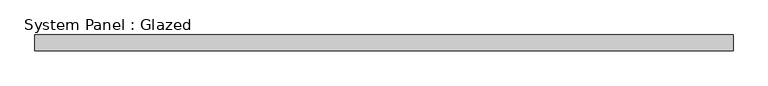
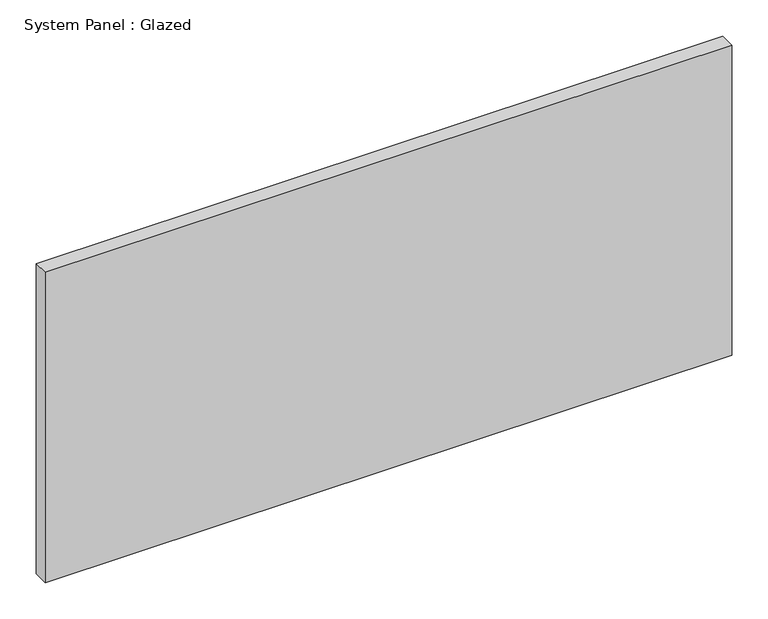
"""IFC4 building model written with IfcOpenShell, lengths in millimetres: plate geometry, System Panel : Glazed."""

import ifcopenshell
import ifcopenshell.guid

model = None  # the IFC model being written
_history = None  # IfcOwnerHistory: only IFC2X3 demands one
_inside = {}  # id of a spatial element -> (the spatial element, [elements in it])
_under = {}  # id of a project, library or spatial element -> (it, [spatial elements below it])
_declared = {}  # id of a project -> (the project, [libraries it declares])
_typed = {}  # id of a type object -> (the type object, [elements of that type])
_made_of = {}  # id of a material, layer set ... -> (it, [elements and type objects made of it])


def new_model(schema):
    """Start an empty IFC model of exactly this schema.

    Asked for "IFC4X3", IfcOpenShell would pick the latest addendum, in which some entities
    have other attributes; the version numbers below select the first issue.
    IFC2X3 requires an IfcOwnerHistory on every rooted entity: one is made here for all.
    """
    global model, _history
    if schema == "IFC4X3":
        model = ifcopenshell.file(schema_version=(4, 3, 0, 0))
    else:
        model = ifcopenshell.file(schema=schema)
    _inside.clear()
    _under.clear()
    _declared.clear()
    _typed.clear()
    _made_of.clear()
    _history = None
    if model.schema == "IFC2X3":
        org = make("IfcOrganization", Name="unknown")
        user = make(
            "IfcPersonAndOrganization",
            ThePerson=make("IfcPerson", FamilyName="unknown"),
            TheOrganization=org,
        )
        app = make(
            "IfcApplication",
            ApplicationDeveloper=org,
            Version="unknown",
            ApplicationFullName="unknown",
            ApplicationIdentifier="unknown",
        )
        _history = make(
            "IfcOwnerHistory",
            OwningUser=user,
            OwningApplication=app,
            ChangeAction="ADDED",
            CreationDate=0,
        )
    return model


def make(cls, **values):
    """One entity of the class cls with the attributes given. An attribute that is None is left unset."""
    return model.create_entity(
        cls, **{name: value for name, value in values.items() if value is not None}
    )


def rooted(cls, **values):
    """An entity with a GlobalId (a new one), such as an element, a storey or a relation."""
    return make(cls, GlobalId=ifcopenshell.guid.new(), OwnerHistory=_history, **values)


def si_unit(unit_type, name, prefix=None):
    """IfcSIUnit, for example si_unit("LENGTHUNIT", "METRE", prefix="MILLI")."""
    return make("IfcSIUnit", UnitType=unit_type, Prefix=prefix, Name=name)


def assignment(units):
    """IfcUnitAssignment: the units of a project."""
    return None if units is None else make("IfcUnitAssignment", Units=units)


def point(xyz):
    """IfcCartesianPoint."""
    return None if xyz is None else make("IfcCartesianPoint", Coordinates=xyz)


def direction(xyz):
    """IfcDirection."""
    return None if xyz is None else make("IfcDirection", DirectionRatios=xyz)


def frame(location, z_axis=None, x_axis=None):
    """IfcAxis2Placement3D, a coordinate frame: its origin and axes. An axis left out is left unset."""
    return make(
        "IfcAxis2Placement3D",
        Location=point(location),
        Axis=direction(z_axis),
        RefDirection=direction(x_axis),
    )


def origin():
    """The frame at (0, 0, 0) with its axes left unset."""
    return frame((0.0, 0.0, 0.0))


def origin_with_axes():
    """The frame at (0, 0, 0) with the z axis (0, 0, 1) and the x axis (1, 0, 0) written out."""
    return frame((0.0, 0.0, 0.0), z_axis=(0.0, 0.0, 1.0), x_axis=(1.0, 0.0, 0.0))


def place(relative_to, where):
    """IfcLocalPlacement: puts the frame where relative to a parent placement (None: the world)."""
    return make(
        "IfcLocalPlacement", PlacementRelTo=relative_to, RelativePlacement=where
    )


def context(
    kind, dimensions, precision=None, world=None, true_north=None, identifier=None
):
    """IfcGeometricRepresentationContext, for example the 3D "Model" context."""
    return make(
        "IfcGeometricRepresentationContext",
        ContextIdentifier=identifier,
        ContextType=kind,
        CoordinateSpaceDimension=dimensions,
        Precision=precision,
        WorldCoordinateSystem=world,
        TrueNorth=true_north,
    )


def project(units=None, contexts=None):
    """IfcProject with its units and contexts."""
    return rooted(
        "IfcProject",
        Name="project",
        RepresentationContexts=contexts,
        UnitsInContext=assignment(units),
    )


def spatial(cls, under=None, at=None, **own):
    """A site, building, storey or space (cls), placed at a placement, below another one or the project."""
    s = rooted(cls, ObjectPlacement=at, **own)
    if under is not None:
        _under.setdefault(under.id(), (under, []))[1].append(s)
    return s


def polyline(points):
    """IfcPolyline through the points."""
    return make("IfcPolyline", Points=[point(p) for p in points])


def outline(outer, holes=None, kind="AREA"):
    """IfcArbitraryClosedProfileDef: a profile drawn as a closed curve; with holes, ...WithVoids."""
    if holes is None:
        return make("IfcArbitraryClosedProfileDef", ProfileType=kind, OuterCurve=outer)
    return make(
        "IfcArbitraryProfileDefWithVoids",
        ProfileType=kind,
        OuterCurve=outer,
        InnerCurves=holes,
    )


def extrude(swept, where, along, depth):
    """IfcExtrudedAreaSolid: the profile swept, set in the frame where, extruded along a direction by depth."""
    return make(
        "IfcExtrudedAreaSolid",
        SweptArea=swept,
        Position=where,
        ExtrudedDirection=direction(along),
        Depth=depth,
    )


def shape(context_of_items, identifier, shape_type, items):
    """IfcShapeRepresentation: the items that make up one representation, for example the "Body"."""
    return make(
        "IfcShapeRepresentation",
        ContextOfItems=context_of_items,
        RepresentationIdentifier=identifier,
        RepresentationType=shape_type,
        Items=items,
    )


def source(mapping_origin, context_of_items, identifier, shape_type, items):
    """IfcRepresentationMap: a shape defined once, which mapped items show again and again."""
    return make(
        "IfcRepresentationMap",
        MappingOrigin=mapping_origin,
        MappedRepresentation=shape(context_of_items, identifier, shape_type, items),
    )


def transform(
    local_origin,
    x_axis=None,
    y_axis=None,
    z_axis=None,
    scale=None,
    scale2=None,
    scale3=None,
    uniform=True,
):
    """IfcCartesianTransformationOperator3D, or its non-uniform kind. x_axis, y_axis, z_axis: its Axis1, 2, 3."""
    if uniform:
        return make(
            "IfcCartesianTransformationOperator3D",
            Axis1=direction(x_axis),
            Axis2=direction(y_axis),
            LocalOrigin=point(local_origin),
            Scale=scale,
            Axis3=direction(z_axis),
        )
    return make(
        "IfcCartesianTransformationOperator3DnonUniform",
        Axis1=direction(x_axis),
        Axis2=direction(y_axis),
        LocalOrigin=point(local_origin),
        Scale=scale,
        Axis3=direction(z_axis),
        Scale2=scale2,
        Scale3=scale3,
    )


def mapped(mapping_source, mapping_target):
    """IfcMappedItem: shows the shape of a source again, moved by a transform."""
    return make(
        "IfcMappedItem", MappingSource=mapping_source, MappingTarget=mapping_target
    )


def made_of(thing, what):
    """Note that an element or type object is made of a material, layer set ...; save() writes the relation."""
    if what is not None:
        _made_of.setdefault(what.id(), (what, []))[1].append(thing)
    return thing


def element(
    cls,
    number,
    at=None,
    inside=None,
    cuts=None,
    type_object=None,
    material=None,
    context=None,
    identifier="Body",
    shape_type=None,
    held_by="IfcProductDefinitionShape",
    body=None,
    shapes=None,
    **own,
):
    """One element of the class cls, such as IfcWall. Its Tag is "e" and its number.

    at: its placement. inside: the storey or other place that contains it. cuts: it is an
    opening in that element (IfcRelVoidsElement). A single representation is given by context,
    identifier, shape_type and body (its items); several are given by shapes. held_by: the class
    of the entity that holds the representations. save() writes the other relations.
    """
    e = rooted(cls, Tag="e%d" % number, ObjectPlacement=at, **own)
    if body is not None:
        shapes = [shape(context, identifier, shape_type, body)]
    if shapes is not None:
        e.Representation = make(held_by, Representations=shapes)
    if inside is not None:
        _inside.setdefault(inside.id(), (inside, []))[1].append(e)
    if cuts is not None:
        rooted(
            "IfcRelVoidsElement", RelatingBuildingElement=cuts, RelatedOpeningElement=e
        )
    if type_object is not None:
        _typed.setdefault(type_object.id(), (type_object, []))[1].append(e)
    return made_of(e, material)


def aggregate(whole, parts):
    """IfcRelAggregates: a whole, such as a stair, and the parts it consists of."""
    return rooted("IfcRelAggregates", RelatingObject=whole, RelatedObjects=parts)


def save(model, path):
    """Write the relations noted so far, then the file.

    IfcRelAggregates (storeys below a building ...), IfcRelContainedInSpatialStructure (elements
    in a storey), IfcRelDefinesByType, IfcRelAssociatesMaterial and IfcRelDeclares: one each for
    every whole, place, type object, material and project.
    """
    for whole, parts in _under.values():
        aggregate(whole, parts)
    for where, things in _inside.values():
        rooted(
            "IfcRelContainedInSpatialStructure",
            RelatedElements=things,
            RelatingStructure=where,
        )
    for kind, things in _typed.values():
        rooted("IfcRelDefinesByType", RelatedObjects=things, RelatingType=kind)
    for what, things in _made_of.values():
        rooted("IfcRelAssociatesMaterial", RelatedObjects=things, RelatingMaterial=what)
    for by, libraries in _declared.values():
        rooted("IfcRelDeclares", RelatingContext=by, RelatedDefinitions=libraries)
    model.write(path)


def system_panel_glazed_60e00044(model_context):
    return source(origin(), model_context, "Body", "SweptSolid", [
        extrude(outline(polyline([(549.9999999, 24.5), (-549.9999999, 24.5), (-549.9999999, 49.5), (549.9999999, 49.5), (549.9999999, 24.5)])), origin_with_axes(), (0.0, 0.0, 1.0), 525.0),
    ])


if __name__ == "__main__":
    model = new_model("IFC4")
    model_context = context("Model", 3, world=origin())
    ifc_project = project(units=[si_unit("LENGTHUNIT", "METRE", prefix="MILLI")], contexts=[model_context])
    site = spatial("IfcSite", under=ifc_project)
    building = spatial("IfcBuilding", under=site)
    placement = place(None, origin())
    system_panel_glazed_shape = system_panel_glazed_60e00044(model_context)
    element("IfcPlate", 1, ObjectType="System Panel : Glazed", at=placement, inside=building, context=model_context, shape_type="MappedRepresentation", body=[
        mapped(system_panel_glazed_shape, transform((0.0, 0.0, 0.0), x_axis=(1.0, 0.0, 0.0), y_axis=(0.0, 1.0, 0.0), z_axis=(0.0, 0.0, 1.0))),
    ])
    save(model, "model.ifc")
